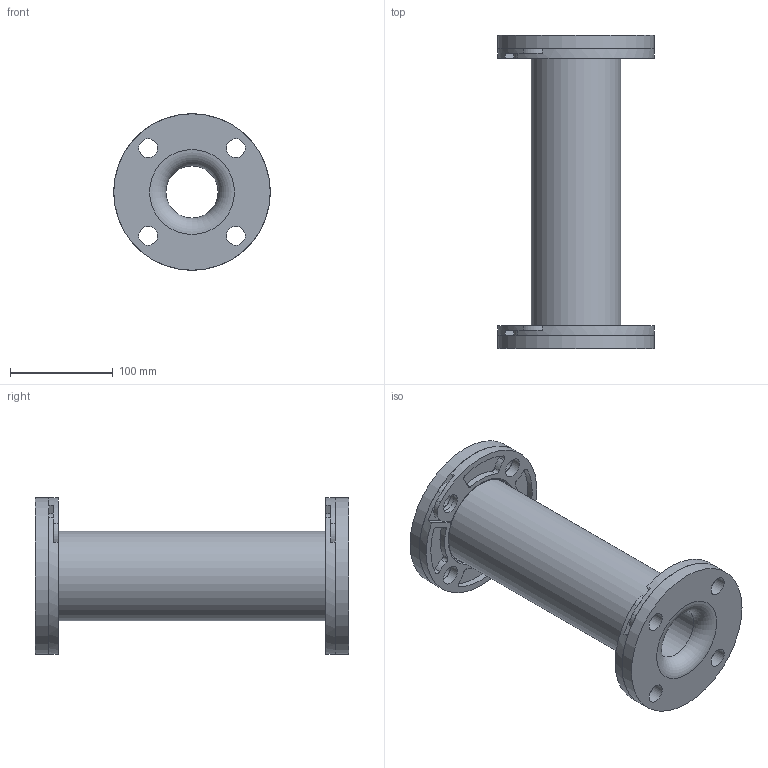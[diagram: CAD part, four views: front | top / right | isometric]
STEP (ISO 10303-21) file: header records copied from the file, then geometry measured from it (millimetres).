
FILE_DESCRIPTION(/* description */ (''),/* implementation_level */ '2;1');
FILE_NAME(/* name */ 'C:\001_Work\Designs\Mercer2014\MQInventor2014\RajR\150 Style\STP-Rev\150 2IDx12FF.stp',/* time_stamp */ '2016-05-13T10:44:10-04:00',/* author */ ('mquog'),/* organization */ (''),/* preprocessor_version */ 'ST-DEVELOPER v15.2',/* originating_system */ 'Autodesk Inventor 2014',/* authorisation */ '');
FILE_SCHEMA (('AUTOMOTIVE_DESIGN { 1 0 10303 214 3 1 1 }'));
Length unit declared in the file: inch
Products named in the file (1): 150 2IDx12FF
Bounding box: 152.4 x 304.8 x 152.4 mm (x, y, z)
Volume: 1611193.2 mm3; surface area: 263955.8 mm2
Topology: 3 solids, 3 shells, 168 faces, 448 edges, 292 vertices
Faces by surface type: cylinder 104, plane 52, torus 12
Full cylindrical faces by diameter (mm): 18.28 x4, 19.05 x16, 50.8 x1, 86.97 x1, 152.4 x2
Entity records: 5582 total; most frequent: CARTESIAN_POINT 1049, DIRECTION 978, ORIENTED_EDGE 832, EDGE_CURVE 416, AXIS2_PLACEMENT_3D 409, VERTEX_POINT 288, EDGE_LOOP 240, CIRCLE 240
